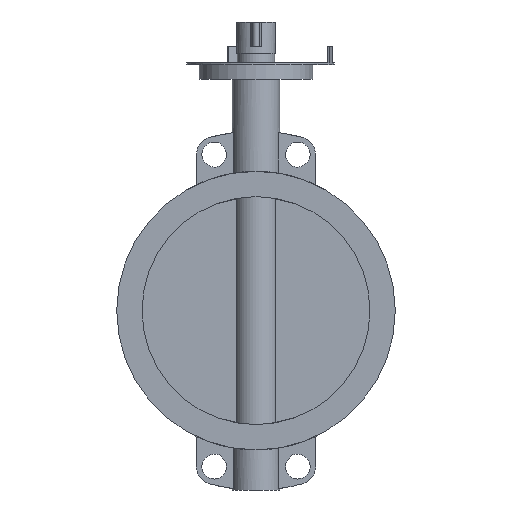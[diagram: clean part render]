
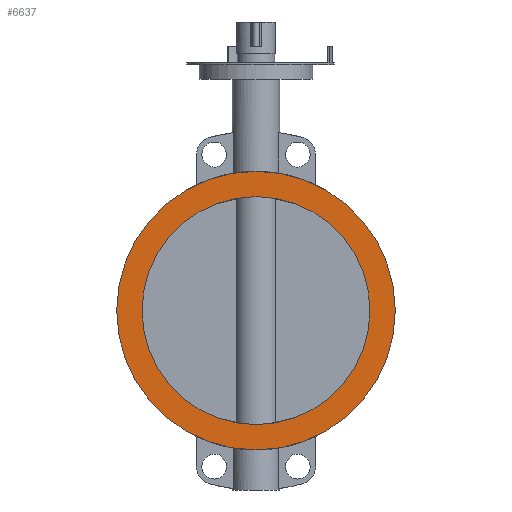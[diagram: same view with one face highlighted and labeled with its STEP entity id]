
A CAD part, left-side view. The second image highlights one B-rep face of the part: STEP entity #6637.
In plain terms, the highlighted planar face has unit normal (-1, 0, 0).
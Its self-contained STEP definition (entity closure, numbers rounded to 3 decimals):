
#6637=ADVANCED_FACE('',(#13295,#13297),#13299,.F.);
#13295=FACE_BOUND('',#13296,.T.);
#13296=EDGE_LOOP('',(#18715));
#13297=FACE_BOUND('',#13298,.T.);
#13298=EDGE_LOOP('',(#18716));
#13299=PLANE('',#13300);
#13300=AXIS2_PLACEMENT_3D('',#13301,#13302,#13303);
#13301=CARTESIAN_POINT('',(-34.,0.,0.));
#13302=DIRECTION('',(1.,0.,0.));
#13303=DIRECTION('',(0.,1.,0.));
#18715=ORIENTED_EDGE('',*,*,#21555,.F.);
#18716=ORIENTED_EDGE('',*,*,#21921,.T.);
#21555=EDGE_CURVE('',#25490,#25490,#25491,.T.);
#21921=EDGE_CURVE('',#26021,#26021,#26022,.T.);
#25490=VERTEX_POINT('',#34790);
#25491=CIRCLE('',#34791,153.);
#26021=VERTEX_POINT('',#36326);
#26022=CIRCLE('',#36327,125.2);
#34790=CARTESIAN_POINT('',(-34.,153.,0.));
#34791=AXIS2_PLACEMENT_3D('',#34792,#34793,#34794);
#34792=CARTESIAN_POINT('',(-34.,0.,0.));
#34793=DIRECTION('',(1.,0.,0.));
#34794=DIRECTION('',(0.,1.,0.));
#36326=CARTESIAN_POINT('',(-34.,125.2,0.));
#36327=AXIS2_PLACEMENT_3D('',#36328,#36329,#36330);
#36328=CARTESIAN_POINT('',(-34.,0.,0.));
#36329=DIRECTION('',(1.,0.,0.));
#36330=DIRECTION('',(0.,1.,0.));
